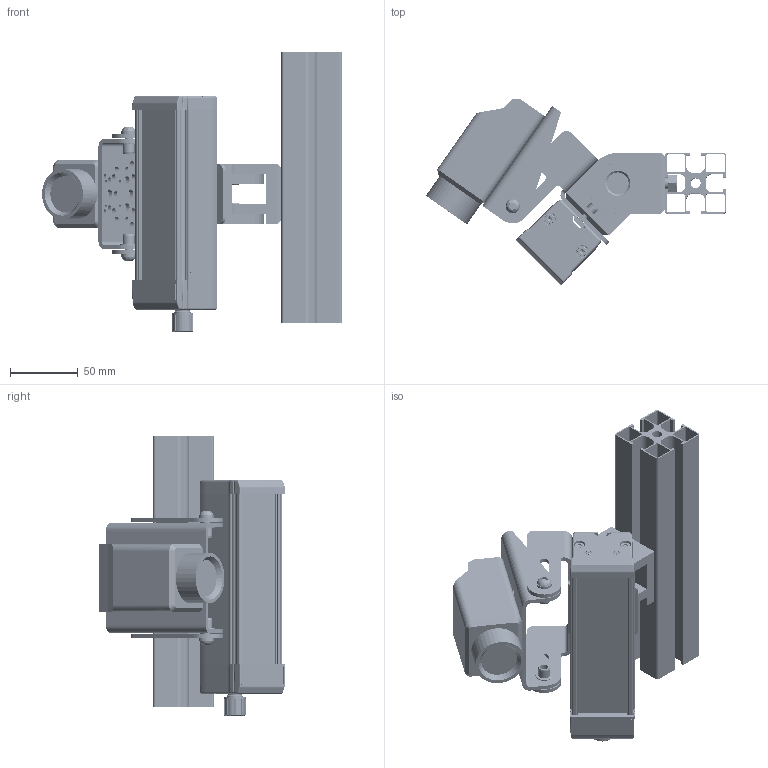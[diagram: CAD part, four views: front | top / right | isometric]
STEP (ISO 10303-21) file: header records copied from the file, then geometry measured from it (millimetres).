
FILE_DESCRIPTION (( 'STEP AP214' ), '1' );
FILE_NAME ('TPLMOUNT-BAR-V1-UPDATED.STEP', '2020-11-10T09:59:52', ( '' ), ( '' ), 'SwSTEP 2.0', 'SolidWorks 2020', '' );
FILE_SCHEMA (( 'AUTOMOTIVE_DESIGN' ));
Length unit declared in the file: millimetre
Products named in the file (76): Copie de 011843^EBAR; Vis FHC_DIN7991 M8x16; Copie de CAPSULE_ANY^Copie de 000132_ASM_Copie de CIRCUIT-LED-125-GENERIQUE_ASM_EBAR; Copie de 000334_ASM^Copie de CIRCUIT-LED-125-GENERIQUE_ASM_EBAR; Copie de 011828^EBAR; Copie de TSM-103-02-F-SH^Copie de 011996_ASM_Copie de CIRCUIT-LED-125-GENERIQUE_ASM_EBAR; Copie de 000132_ASM^Copie de CIRCUIT-LED-125-GENERIQUE_ASM_EBAR; Copie de LED_1^Copie de 011841_ASM_EBAR; Copie de 011841-01^Copie de 011841_ASM_EBAR; Copie de 011995_ASM^EBAR; Ecrou_T-M4; Copie de LENTILLE___OLDER_10__LED_XPE_AN_ASM^Copie de 000334_ASM_Copie de CIRCUIT-LED-125-GENERIQUE_ASM_EBAR; Copie de 011993_ASM^EBAR; Copie de LED_XPE_ANY_ASM^Copie de LENTILLE___OLDER_10__LED_XPE_AN_ASM_Copie de 000334_ASM_Copie de CIRCUIT-LED-125-GENERIQUE_ASM_EBAR; Copie de 011998^Copie de CIRCUIT-LED-125-GENERIQUE_ASM_EBAR; ACC-01-001; 016505; Copie de 011830^EBAR; Copie de CONG_1^Copie de LED_XPE_ANY_ASM_Copie de LENTILLE___OLDER_10__LED_XPE_AN_ASM_Copie de 000334_ASM_Copie de CIRCUIT-LED-125-GENERIQUE_ASM_EBAR; Copie de 011831-01^Copie de 011831_ASM_EBAR; Vis CHC M3x12_Vis CHC M 4-12; Copie de SUPPORT_ANY^Copie de 000132_ASM_Copie de CIRCUIT-LED-125-GENERIQUE_ASM_EBAR; Copie de EXTRUSION3^Copie de LED_XPE_ANY_ASM_Copie de LENTILLE___OLDER_10__LED_XPE_AN_ASM_Copie de 000334_ASM_Copie de CIRCUIT-LED-125-GENERIQUE_ASM_EBAR; Copie de 011848^EBAR; Copie de 012016^EBAR; Copie de 003216^Copie de CIRCUIT-LED-125-GENERIQUE_ASM_EBAR; TPLMOUNT-BAR-V1; Copie de 011994^EBAR; 45x45 rainuré; Copie de 011829^EBAR; Copie de 012035_ASM^EBAR; Copie de 011838^EBAR; Copie de 012059_AF0^Copie de 012035_ASM_EBAR; TPLMOUNT-BAR-V1-UPDATED; Copie de 011999^EBAR; Copie de LED_660_NM_ANY^Copie de LENTILLE___OLDER_10__LED_XPE_AN_ASM_Copie de 000334_ASM_Copie de CIRCUIT-LED-125-GENERIQUE_ASM_EBAR; Copie de 011841_ASM^EBAR; Copie de A14054026^Copie de 011996_ASM_Copie de CIRCUIT-LED-125-GENERIQUE_ASM_EBAR; Copie de 012017^EBAR; 016503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
Assembly tree (124 placements, depth 8):
  TPLMOUNT-BAR-V1-UPDATED
    TPLMOUNT-BAR-V1
      EBAR
        Copie de 011831_ASM^EBAR
          Copie de 011831-01^Copie de 011831_ASM_EBAR
          Copie de 011922^Copie de 011831_ASM_EBAR
        Copie de 011993_ASM^EBAR
          Copie de 011798_AF0^Copie de 011993_ASM_EBAR
        Copie de 011829^EBAR
        Copie de 011841_ASM^EBAR
          Copie de 011841-01^Copie de 011841_ASM_EBAR
          Copie de 1457526^Copie de 011841_ASM_EBAR
          Copie de SSM-103-X-DV^Copie de 011841_ASM_EBAR  x2
          Copie de LED_1^Copie de 011841_ASM_EBAR  x2
        Copie de 011848^EBAR  x2
        Copie de 011830^EBAR
        Copie de 011994^EBAR
        Copie de 011995_ASM^EBAR
          Copie de 012058_AF0^Copie de 011995_ASM_EBAR
        Copie de 012035_ASM^EBAR
          Copie de 012059_AF0^Copie de 012035_ASM_EBAR
        Copie de CIRCUIT-LED-125-GENERIQUE_ASM^EBAR
          Copie de 011996_ASM^Copie de CIRCUIT-LED-125-GENERIQUE_ASM_EBAR
            Copie de A14054026^Copie de 011996_ASM_Copie de CIRCUIT-LED-125-GENERIQUE_ASM_EBAR
            Copie de TSM-103-02-F-SH^Copie de 011996_ASM_Copie de CIRCUIT-LED-125-GENERIQUE_ASM_EBAR  x2
            Copie de 103-22-F-D-VS_HORIZ^Copie de 011996_ASM_Copie de CIRCUIT-LED-125-GENERIQUE_ASM_EBAR  x2
          Copie de 000132_ASM^Copie de CIRCUIT-LED-125-GENERIQUE_ASM_EBAR
            Copie de SUPPORT_ANY^Copie de 000132_ASM_Copie de CIRCUIT-LED-125-GENERIQUE_ASM_EBAR
            Copie de CAPSULE_ANY^Copie de 000132_ASM_Copie de CIRCUIT-LED-125-GENERIQUE_ASM_EBAR
          Copie de 000132_ASM^Copie de CIRCUIT-LED-125-GENERIQUE_ASM_EBAR
            Copie de SUPPORT_ANY^Copie de 000132_ASM_Copie de CIRCUIT-LED-125-GENERIQUE_ASM_EBAR
            Copie de CAPSULE_ANY^Copie de 000132_ASM_Copie de CIRCUIT-LED-125-GENERIQUE_ASM_EBAR
          Copie de 000132_ASM^Copie de CIRCUIT-LED-125-GENERIQUE_ASM_EBAR
            Copie de SUPPORT_ANY^Copie de 000132_ASM_Copie de CIRCUIT-LED-125-GENERIQUE_ASM_EBAR
            Copie de CAPSULE_ANY^Copie de 000132_ASM_Copie de CIRCUIT-LED-125-GENERIQUE_ASM_EBAR
          Copie de 000132_ASM^Copie de CIRCUIT-LED-125-GENERIQUE_ASM_EBAR
            Copie de SUPPORT_ANY^Copie de 000132_ASM_Copie de CIRCUIT-LED-125-GENERIQUE_ASM_EBAR
            Copie de CAPSULE_ANY^Copie de 000132_ASM_Copie de CIRCUIT-LED-125-GENERIQUE_ASM_EBAR
          Copie de 000132_ASM^Copie de CIRCUIT-LED-125-GENERIQUE_ASM_EBAR
            Copie de SUPPORT_ANY^Copie de 000132_ASM_Copie de CIRCUIT-LED-125-GENERIQUE_ASM_EBAR
            Copie de CAPSULE_ANY^Copie de 000132_ASM_Copie de CIRCUIT-LED-125-GENERIQUE_ASM_EBAR
          Copie de 003216^Copie de CIRCUIT-LED-125-GENERIQUE_ASM_EBAR  x5
          Copie de 000334_ASM^Copie de CIRCUIT-LED-125-GENERIQUE_ASM_EBAR
            Copie de LENTILLE___OLDER_10__LED_XPE_AN_ASM^Copie de 000334_ASM_Copie de CIRCUIT-LED-125-GENERIQUE_ASM_EBAR
              Copie de LENTILLE_10__XPE_ANY^Copie de LENTILLE___OLDER_10__LED_XPE_AN_ASM_Copie de 000334_ASM_Copie de CIRCUIT-LED-125-GENERIQUE_ASM_EBAR
              Copie de OLDER_LENTILLE_XPE_ANY^Copie de LENTILLE___OLDER_10__LED_XPE_AN_ASM_Copie de 000334_ASM_Copie de CIRCUIT-LED-125-GENERIQUE_ASM_EBAR
              Copie de LED_XPE_ANY_ASM^Copie de LENTILLE___OLDER_10__LED_XPE_AN_ASM_Copie de 000334_ASM_Copie de CIRCUIT-LED-125-GENERIQUE_ASM_EBAR
                Copie de CONG_1^Copie de LED_XPE_ANY_ASM_Copie de LENTILLE___OLDER_10__LED_XPE_AN_ASM_Copie de 000334_ASM_Copie de CIRCUIT-LED-125-GENERIQUE_ASM_EBAR
                Copie de EXTRUSION3^Copie de LED_XPE_ANY_ASM_Copie de LENTILLE___OLDER_10__LED_XPE_AN_ASM_Copie de 000334_ASM_Copie de CIRCUIT-LED-125-GENERIQUE_ASM_EBAR
              Copie de LED_660_NM_ANY^Copie de LENTILLE___OLDER_10__LED_XPE_AN_ASM_Copie de 000334_ASM_Copie de CIRCUIT-LED-125-GENERIQUE_ASM_EBAR
          Copie de 000334_ASM^Copie de CIRCUIT-LED-125-GENERIQUE_ASM_EBAR
            Copie de LENTILLE___OLDER_10__LED_XPE_AN_ASM^Copie de 000334_ASM_Copie de CIRCUIT-LED-125-GENERIQUE_ASM_EBAR
              Copie de LENTILLE_10__XPE_ANY^Copie de LENTILLE___OLDER_10__LED_XPE_AN_ASM_Copie de 000334_ASM_Copie de CIRCUIT-LED-125-GENERIQUE_ASM_EBAR
              Copie de OLDER_LENTILLE_XPE_ANY^Copie de LENTILLE___OLDER_10__LED_XPE_AN_ASM_Copie de 000334_ASM_Copie de CIRCUIT-LED-125-GENERIQUE_ASM_EBAR
              Copie de LED_XPE_ANY_ASM^Copie de LENTILLE___OLDER_10__LED_XPE_AN_ASM_Copie de 000334_ASM_Copie de CIRCUIT-LED-125-GENERIQUE_ASM_EBAR
                Copie de CONG_1^Copie de LED_XPE_ANY_ASM_Copie de LENTILLE___OLDER_10__LED_XPE_AN_ASM_Copie de 000334_ASM_Copie de CIRCUIT-LED-125-GENERIQUE_ASM_EBAR
                Copie de EXTRUSION3^Copie de LED_XPE_ANY_ASM_Copie de LENTILLE___OLDER_10__LED_XPE_AN_ASM_Copie de 000334_ASM_Copie de CIRCUIT-LED-125-GENERIQUE_ASM_EBAR
              Copie de LED_660_NM_ANY^Copie de LENTILLE___OLDER_10__LED_XPE_AN_ASM_Copie de 000334_ASM_Copie de CIRCUIT-LED-125-GENERIQUE_ASM_EBAR
          Copie de 000334_ASM^Copie de CIRCUIT-LED-125-GENERIQUE_ASM_EBAR
            Copie de LENTILLE___OLDER_10__LED_XPE_AN_ASM^Copie de 000334_ASM_Copie de CIRCUIT-LED-125-GENERIQUE_ASM_EBAR
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Bounding box: 221.88 x 137.79 x 206.59 mm (x, y, z)
Volume: 598227.1 mm3; surface area: 383900.2 mm2
Topology: 100 solids, 101 shells, 7559 faces, 18891 edges, 11643 vertices
Faces by surface type: plane 2768, cylinder 2190, bspline 1353, torus 579, cone 521, sphere 148
Entity records: 276385 total; most frequent: CARTESIAN_POINT 100923, ORIENTED_EDGE 26684, DIRECTION 21145, EDGE_CURVE 13342, VERTEX_POINT 8205, AXIS2_PLACEMENT_3D 7839, EDGE_LOOP 5699, VECTOR 5467
